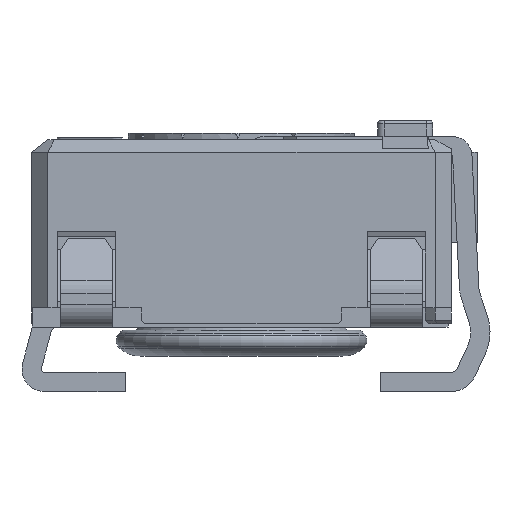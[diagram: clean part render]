
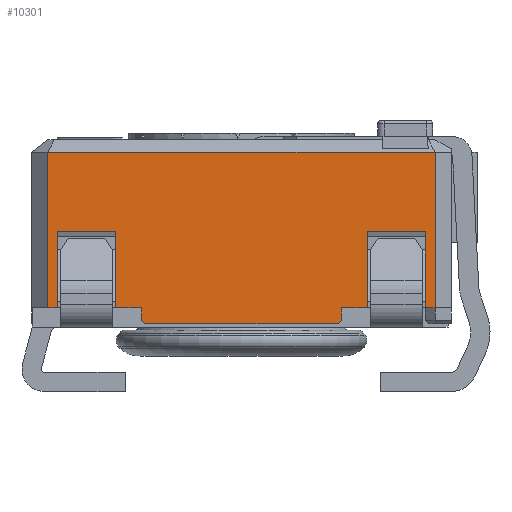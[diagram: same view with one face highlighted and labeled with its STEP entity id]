
A CAD part, left-side view. The second image highlights one B-rep face of the part: STEP entity #10301.
In plain terms, the highlighted planar face has unit normal (-1, 0, 0).
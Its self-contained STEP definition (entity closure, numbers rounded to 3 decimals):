
#920=FACE_OUTER_BOUND('',#1456,.T.);
#1456=EDGE_LOOP('',(#8814,#8815,#8816,#8817,#8818,#8819,#8820,#8821,#8822,
#8823,#8824,#8825,#8826,#8827,#8828,#8829,#8830,#8831));
#2079=LINE('',#15597,#3242);
#2198=LINE('',#15860,#3361);
#2204=LINE('',#15873,#3367);
#2210=LINE('',#15884,#3373);
#2216=LINE('',#15895,#3379);
#2221=LINE('',#15905,#3384);
#2224=LINE('',#15911,#3387);
#2256=LINE('',#15973,#3419);
#2280=LINE('',#16028,#3443);
#2292=LINE('',#16048,#3455);
#2294=LINE('',#16053,#3457);
#2303=LINE('',#16072,#3466);
#2305=LINE('',#16075,#3468);
#2325=LINE('',#16116,#3488);
#2505=LINE('',#16571,#3668);
#2518=LINE('',#16595,#3681);
#2519=LINE('',#16597,#3682);
#2520=LINE('',#16599,#3683);
#3242=VECTOR('',#12585,10.);
#3361=VECTOR('',#12770,10.);
#3367=VECTOR('',#12778,10.);
#3373=VECTOR('',#12784,10.);
#3379=VECTOR('',#12792,10.);
#3384=VECTOR('',#12799,10.);
#3387=VECTOR('',#12804,10.);
#3419=VECTOR('',#12846,10.);
#3443=VECTOR('',#12898,10.);
#3455=VECTOR('',#12918,10.);
#3457=VECTOR('',#12922,10.);
#3466=VECTOR('',#12943,10.);
#3468=VECTOR('',#12947,10.);
#3488=VECTOR('',#12981,10.);
#3668=VECTOR('',#13411,10.);
#3681=VECTOR('',#13432,10.);
#3682=VECTOR('',#13435,10.);
#3683=VECTOR('',#13438,10.);
#4371=VERTEX_POINT('',#15594);
#4372=VERTEX_POINT('',#15596);
#4482=VERTEX_POINT('',#15857);
#4483=VERTEX_POINT('',#15859);
#4487=VERTEX_POINT('',#15869);
#4489=VERTEX_POINT('',#15872);
#4494=VERTEX_POINT('',#15882);
#4497=VERTEX_POINT('',#15892);
#4501=VERTEX_POINT('',#15902);
#4504=VERTEX_POINT('',#15909);
#4527=VERTEX_POINT('',#15960);
#4529=VERTEX_POINT('',#15972);
#4546=VERTEX_POINT('',#16024);
#4551=VERTEX_POINT('',#16050);
#4556=VERTEX_POINT('',#16071);
#4692=VERTEX_POINT('',#16568);
#4693=VERTEX_POINT('',#16570);
#4700=VERTEX_POINT('',#16593);
#5556=EDGE_CURVE('',#4372,#4371,#2079,.T.);
#5691=EDGE_CURVE('',#4483,#4482,#2198,.T.);
#5697=EDGE_CURVE('',#4489,#4487,#2204,.T.);
#5703=EDGE_CURVE('',#4482,#4494,#2210,.T.);
#5709=EDGE_CURVE('',#4487,#4497,#2216,.T.);
#5714=EDGE_CURVE('',#4497,#4501,#2221,.T.);
#5717=EDGE_CURVE('',#4501,#4504,#2224,.T.);
#5749=EDGE_CURVE('',#4529,#4483,#2256,.T.);
#5779=EDGE_CURVE('',#4371,#4529,#2280,.T.);
#5791=EDGE_CURVE('',#4372,#4546,#2292,.T.);
#5793=EDGE_CURVE('',#4494,#4551,#2294,.T.);
#5802=EDGE_CURVE('',#4556,#4527,#2303,.T.);
#5804=EDGE_CURVE('',#4546,#4527,#2305,.T.);
#5825=EDGE_CURVE('',#4504,#4556,#2325,.T.);
#6048=EDGE_CURVE('',#4692,#4693,#2505,.T.);
#6061=EDGE_CURVE('',#4700,#4551,#2518,.T.);
#6062=EDGE_CURVE('',#4700,#4693,#2519,.T.);
#6063=EDGE_CURVE('',#4692,#4489,#2520,.T.);
#8814=ORIENTED_EDGE('',*,*,#6061,.F.);
#8815=ORIENTED_EDGE('',*,*,#6062,.T.);
#8816=ORIENTED_EDGE('',*,*,#6048,.F.);
#8817=ORIENTED_EDGE('',*,*,#6063,.T.);
#8818=ORIENTED_EDGE('',*,*,#5697,.T.);
#8819=ORIENTED_EDGE('',*,*,#5709,.T.);
#8820=ORIENTED_EDGE('',*,*,#5714,.T.);
#8821=ORIENTED_EDGE('',*,*,#5717,.T.);
#8822=ORIENTED_EDGE('',*,*,#5825,.T.);
#8823=ORIENTED_EDGE('',*,*,#5802,.T.);
#8824=ORIENTED_EDGE('',*,*,#5804,.F.);
#8825=ORIENTED_EDGE('',*,*,#5791,.F.);
#8826=ORIENTED_EDGE('',*,*,#5556,.T.);
#8827=ORIENTED_EDGE('',*,*,#5779,.T.);
#8828=ORIENTED_EDGE('',*,*,#5749,.T.);
#8829=ORIENTED_EDGE('',*,*,#5691,.T.);
#8830=ORIENTED_EDGE('',*,*,#5703,.T.);
#8831=ORIENTED_EDGE('',*,*,#5793,.T.);
#9604=PLANE('',#11085);
#10301=ADVANCED_FACE('',(#920),#9604,.T.);
#11085=AXIS2_PLACEMENT_3D('',#16780,#13640,#13641);
#12585=DIRECTION('',(0.,-1.,0.));
#12770=DIRECTION('',(0.,0.,-1.));
#12778=DIRECTION('',(0.,-1.,0.));
#12784=DIRECTION('',(0.,-1.,0.));
#12792=DIRECTION('',(0.,0.,1.));
#12799=DIRECTION('',(0.,-1.,0.));
#12804=DIRECTION('',(0.,0.,-1.));
#12846=DIRECTION('',(0.,-1.,0.));
#12898=DIRECTION('',(0.,0.,1.));
#12918=DIRECTION('',(0.,0.,1.));
#12922=DIRECTION('',(0.,0.,-1.));
#12943=DIRECTION('',(0.,0.,1.));
#12947=DIRECTION('',(0.,-1.,0.));
#12981=DIRECTION('',(0.,-1.,0.));
#13411=DIRECTION('',(0.,0.707,-0.707));
#13432=DIRECTION('',(0.,0.707,0.707));
#13435=DIRECTION('',(0.,-1.,0.));
#13438=DIRECTION('',(0.,0.,1.));
#13640=DIRECTION('center_axis',(-1.,0.,0.));
#13641=DIRECTION('ref_axis',(0.,0.,1.));
#15594=CARTESIAN_POINT('',(-14.26,-8.882,0.25));
#15596=CARTESIAN_POINT('',(-14.26,-8.732,0.25));
#15597=CARTESIAN_POINT('',(-14.26,-13.244,0.25));
#15857=CARTESIAN_POINT('',(-14.26,-9.782,0.25));
#15859=CARTESIAN_POINT('',(-14.26,-9.782,1.425));
#15860=CARTESIAN_POINT('',(-14.26,-9.782,0.387));
#15869=CARTESIAN_POINT('',(-14.26,-13.682,0.25));
#15872=CARTESIAN_POINT('',(-14.26,-13.282,0.25));
#15873=CARTESIAN_POINT('',(-14.26,-13.244,0.25));
#15882=CARTESIAN_POINT('',(-14.26,-10.182,0.25));
#15884=CARTESIAN_POINT('',(-14.26,-13.244,0.25));
#15892=CARTESIAN_POINT('',(-14.26,-13.682,1.425));
#15895=CARTESIAN_POINT('',(-14.26,-13.682,0.387));
#15902=CARTESIAN_POINT('',(-14.26,-14.582,1.425));
#15905=CARTESIAN_POINT('',(-14.26,-14.657,1.425));
#15909=CARTESIAN_POINT('',(-14.26,-14.582,0.25));
#15911=CARTESIAN_POINT('',(-14.26,-14.582,0.387));
#15960=CARTESIAN_POINT('',(-14.26,-14.732,2.655));
#15972=CARTESIAN_POINT('',(-14.26,-8.882,1.425));
#15973=CARTESIAN_POINT('',(-14.26,-11.807,1.425));
#16024=CARTESIAN_POINT('',(-14.26,-8.732,2.655));
#16028=CARTESIAN_POINT('',(-14.26,-8.882,0.387));
#16048=CARTESIAN_POINT('',(-14.26,-8.732,0.));
#16050=CARTESIAN_POINT('',(-14.26,-10.182,0.05));
#16053=CARTESIAN_POINT('',(-14.26,-10.182,0.));
#16071=CARTESIAN_POINT('',(-14.26,-14.732,0.25));
#16072=CARTESIAN_POINT('',(-14.26,-14.732,0.));
#16075=CARTESIAN_POINT('',(-14.26,-13.232,2.655));
#16116=CARTESIAN_POINT('',(-14.26,-13.244,0.25));
#16568=CARTESIAN_POINT('',(-14.26,-13.282,0.05));
#16570=CARTESIAN_POINT('',(-14.26,-13.232,0.));
#16571=CARTESIAN_POINT('',(-14.26,-13.619,0.388));
#16593=CARTESIAN_POINT('',(-14.26,-10.232,0.));
#16595=CARTESIAN_POINT('',(-14.26,-11.344,-1.113));
#16597=CARTESIAN_POINT('',(-14.26,-8.732,0.));
#16599=CARTESIAN_POINT('',(-14.26,-13.282,0.));
#16780=CARTESIAN_POINT('Origin',(-14.26,-14.732,0.));
